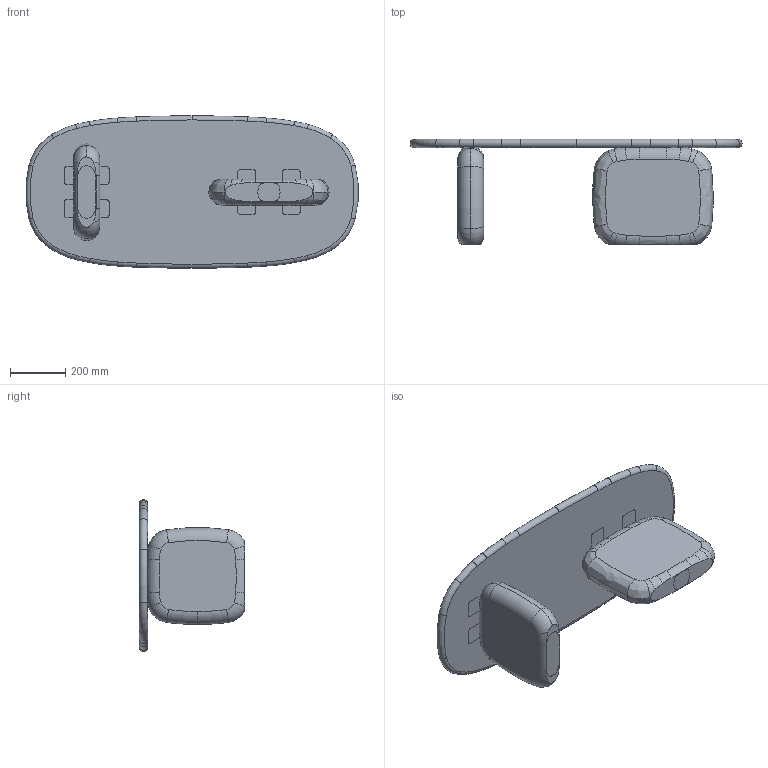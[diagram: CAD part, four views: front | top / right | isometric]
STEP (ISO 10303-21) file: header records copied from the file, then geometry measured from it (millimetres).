
FILE_DESCRIPTION (( 'STEP AP203' ), '1' );
FILE_NAME ('CAIRN COFFEE TABLE.STEP', '2025-10-15T10:28:26', ( '' ), ( '' ), 'SwSTEP 2.0', 'SolidWorks 2025', '' );
FILE_SCHEMA (( 'CONFIG_CONTROL_DESIGN' ));
Length unit declared in the file: millimetre
Products named in the file (2): Group1^CAIRN COFFEE TABLE; CAIRN COFFEE TABLE
Assembly tree (1 placements, depth 2):
  CAIRN COFFEE TABLE
    Group1^CAIRN COFFEE TABLE
Bounding box: 1197.34 x 380 x 549.56 mm (x, y, z)
Volume: 39695997.5 mm3; surface area: 1865133.3 mm2
Topology: 1 solids, 1 shells, 120 faces, 384 edges, 269 vertices
Faces by surface type: torus 79, plane 21, bspline 12, cylinder 8
Entity records: 7125 total; most frequent: CARTESIAN_POINT 3522, ORIENTED_EDGE 768, DIRECTION 752, EDGE_CURVE 384, AXIS2_PLACEMENT_3D 358, VERTEX_POINT 269, CIRCLE 246, EDGE_LOOP 125
